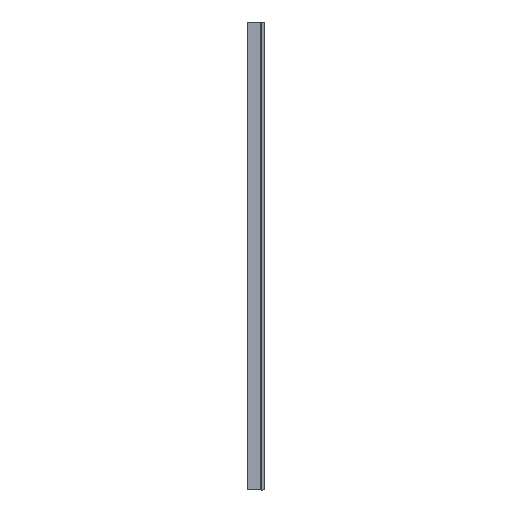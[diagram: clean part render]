
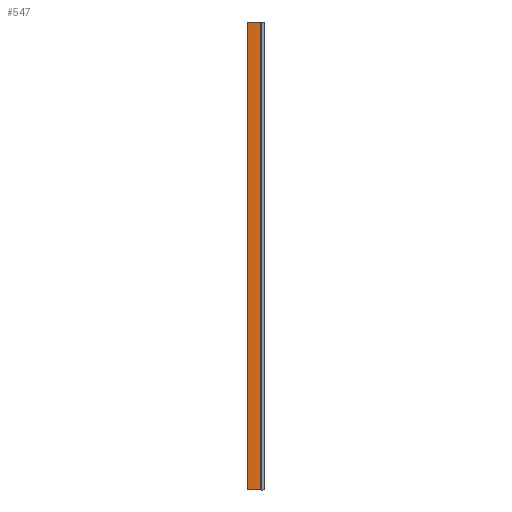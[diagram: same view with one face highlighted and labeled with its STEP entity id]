
A CAD part, left-side view. The second image highlights one B-rep face of the part: STEP entity #547.
In plain terms, the highlighted planar face has unit normal (-1, 0, 0).
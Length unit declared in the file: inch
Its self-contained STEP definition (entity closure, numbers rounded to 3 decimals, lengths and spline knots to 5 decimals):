
#32 = DIRECTION ( 'NONE',  ( 0., -1., 0. ) ) ;
#36 = LINE ( 'NONE', #347, #480 ) ;
#38 = VERTEX_POINT ( 'NONE', #713 ) ;
#49 = DIRECTION ( 'NONE',  ( 0., 0., -1. ) ) ;
#55 = EDGE_LOOP ( 'NONE', ( #515, #279, #267, #118 ) ) ;
#67 = CARTESIAN_POINT ( 'NONE',  ( 0., 0.03937, 120. ) ) ;
#76 = PLANE ( 'NONE',  #763 ) ;
#90 = VECTOR ( 'NONE', #49, 39.37008 ) ;
#118 = ORIENTED_EDGE ( 'NONE', *, *, #566, .T. ) ;
#124 = VERTEX_POINT ( 'NONE', #241 ) ;
#138 = LINE ( 'NONE', #426, #526 ) ;
#241 = CARTESIAN_POINT ( 'NONE',  ( 0., 3.5, 0. ) ) ;
#243 = CARTESIAN_POINT ( 'NONE',  ( 0., 0.03937, 120. ) ) ;
#244 = FACE_OUTER_BOUND ( 'NONE', #55, .T. ) ;
#265 = DIRECTION ( 'NONE',  ( 0., -1., 0. ) ) ;
#267 = ORIENTED_EDGE ( 'NONE', *, *, #524, .F. ) ;
#268 = VERTEX_POINT ( 'NONE', #243 ) ;
#279 = ORIENTED_EDGE ( 'NONE', *, *, #314, .F. ) ;
#291 = DIRECTION ( 'NONE',  ( 0., 0., -1. ) ) ;
#306 = CARTESIAN_POINT ( 'NONE',  ( 0., 3.5, 120. ) ) ;
#314 = EDGE_CURVE ( 'NONE', #268, #38, #36, .T. ) ;
#320 = VERTEX_POINT ( 'NONE', #306 ) ;
#340 = CARTESIAN_POINT ( 'NONE',  ( 0., 3.5, 120. ) ) ;
#347 = CARTESIAN_POINT ( 'NONE',  ( 0., 0.03937, 120. ) ) ;
#417 = CARTESIAN_POINT ( 'NONE',  ( 0., 0.03937, 120. ) ) ;
#426 = CARTESIAN_POINT ( 'NONE',  ( 0., 0.03937, 0. ) ) ;
#438 = LINE ( 'NONE', #67, #789 ) ;
#440 = DIRECTION ( 'NONE',  ( 1., 0., 0. ) ) ;
#480 = VECTOR ( 'NONE', #291, 39.37008 ) ;
#515 = ORIENTED_EDGE ( 'NONE', *, *, #682, .T. ) ;
#524 = EDGE_CURVE ( 'NONE', #320, #268, #438, .T. ) ;
#526 = VECTOR ( 'NONE', #32, 39.37008 ) ;
#547 = ADVANCED_FACE ( 'NONE', ( #244 ), #76, .F. ) ;
#566 = EDGE_CURVE ( 'NONE', #320, #124, #686, .T. ) ;
#636 = DIRECTION ( 'NONE',  ( 0., 0., -1. ) ) ;
#682 = EDGE_CURVE ( 'NONE', #124, #38, #138, .T. ) ;
#686 = LINE ( 'NONE', #340, #90 ) ;
#713 = CARTESIAN_POINT ( 'NONE',  ( 0., 0.03937, 0. ) ) ;
#763 = AXIS2_PLACEMENT_3D ( 'NONE', #417, #440, #636 ) ;
#789 = VECTOR ( 'NONE', #265, 39.37008 ) ;
